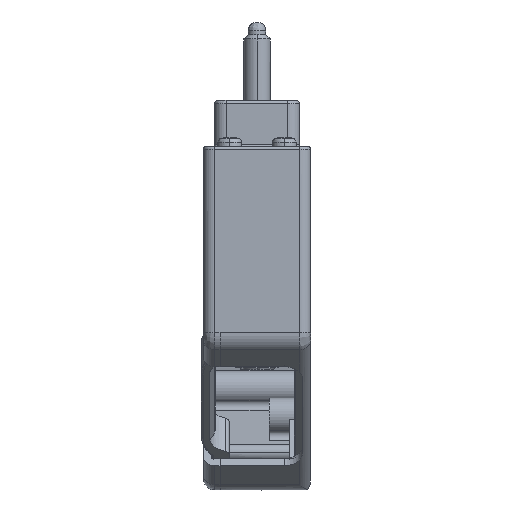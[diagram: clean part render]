
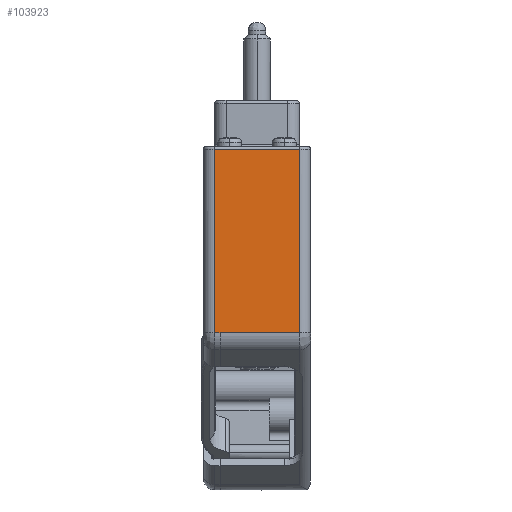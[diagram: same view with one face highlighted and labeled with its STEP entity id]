
A CAD part, left-side view. The second image highlights one B-rep face of the part: STEP entity #103923.
In plain terms, the highlighted planar face has unit normal (-1, 0, 0).
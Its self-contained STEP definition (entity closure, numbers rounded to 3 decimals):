
#1132 = LINE ( 'NONE', #136085, #79042 ) ;
#2083 = EDGE_CURVE ( 'NONE', #21287, #116219, #86844, .T. ) ;
#4465 = CARTESIAN_POINT ( 'NONE',  ( -79.9, 0., -33.642 ) ) ;
#6626 = VERTEX_POINT ( 'NONE', #133722 ) ;
#12011 = DIRECTION ( 'NONE',  ( 0., -1., 0. ) ) ;
#17766 = DIRECTION ( 'NONE',  ( 0., 0., -1. ) ) ;
#21287 = VERTEX_POINT ( 'NONE', #67179 ) ;
#22495 = CARTESIAN_POINT ( 'NONE',  ( -79.9, 7.75, -33.642 ) ) ;
#25017 = CARTESIAN_POINT ( 'NONE',  ( -79.9, -7.75, -0.2 ) ) ;
#27142 = DIRECTION ( 'NONE',  ( 1., 0., 0. ) ) ;
#28992 = AXIS2_PLACEMENT_3D ( 'NONE', #25017, #27142, #88049 ) ;
#30075 = DIRECTION ( 'NONE',  ( 0., 1., 0. ) ) ;
#31550 = EDGE_CURVE ( 'NONE', #154106, #6626, #1132, .T. ) ;
#35038 = FACE_OUTER_BOUND ( 'NONE', #102335, .T. ) ;
#35447 = EDGE_CURVE ( 'NONE', #154106, #60499, #120991, .T. ) ;
#36241 = VECTOR ( 'NONE', #30075, 1000. ) ;
#46944 = ORIENTED_EDGE ( 'NONE', *, *, #2083, .F. ) ;
#53791 = VECTOR ( 'NONE', #159958, 1000. ) ;
#56518 = EDGE_CURVE ( 'NONE', #116219, #60499, #75091, .T. ) ;
#58750 = CARTESIAN_POINT ( 'NONE',  ( -79.9, 0., -33.642 ) ) ;
#60499 = VERTEX_POINT ( 'NONE', #22495 ) ;
#60638 = LINE ( 'NONE', #94482, #93675 ) ;
#61099 = ORIENTED_EDGE ( 'NONE', *, *, #79573, .F. ) ;
#67179 = CARTESIAN_POINT ( 'NONE',  ( -79.9, -7.75, -33.642 ) ) ;
#75091 = LINE ( 'NONE', #4465, #36241 ) ;
#79042 = VECTOR ( 'NONE', #12011, 1000. ) ;
#79573 = EDGE_CURVE ( 'NONE', #6626, #21287, #60638, .T. ) ;
#86844 = LINE ( 'NONE', #58750, #53791 ) ;
#87002 = PLANE ( 'NONE',  #28992 ) ;
#88049 = DIRECTION ( 'NONE',  ( 0., 0., -1. ) ) ;
#90034 = ORIENTED_EDGE ( 'NONE', *, *, #35447, .T. ) ;
#92790 = CARTESIAN_POINT ( 'NONE',  ( -79.9, 7.75, -0.2 ) ) ;
#93675 = VECTOR ( 'NONE', #130970, 1000. ) ;
#94482 = CARTESIAN_POINT ( 'NONE',  ( -79.9, -7.75, -16.921 ) ) ;
#96696 = CARTESIAN_POINT ( 'NONE',  ( -79.9, 6.75, -33.642 ) ) ;
#98261 = ORIENTED_EDGE ( 'NONE', *, *, #31550, .F. ) ;
#102335 = EDGE_LOOP ( 'NONE', ( #61099, #98261, #90034, #138882, #46944 ) ) ;
#103923 = ADVANCED_FACE ( 'NONE', ( #35038 ), #87002, .F. ) ;
#116219 = VERTEX_POINT ( 'NONE', #96696 ) ;
#120991 = LINE ( 'NONE', #140754, #138572 ) ;
#130970 = DIRECTION ( 'NONE',  ( 0., 0., -1. ) ) ;
#133722 = CARTESIAN_POINT ( 'NONE',  ( -79.9, -7.75, -0.2 ) ) ;
#136085 = CARTESIAN_POINT ( 'NONE',  ( -79.9, 0., -0.2 ) ) ;
#138572 = VECTOR ( 'NONE', #17766, 1000. ) ;
#138882 = ORIENTED_EDGE ( 'NONE', *, *, #56518, .F. ) ;
#140754 = CARTESIAN_POINT ( 'NONE',  ( -79.9, 7.75, -16.921 ) ) ;
#154106 = VERTEX_POINT ( 'NONE', #92790 ) ;
#159958 = DIRECTION ( 'NONE',  ( 0., 1., 0. ) ) ;
